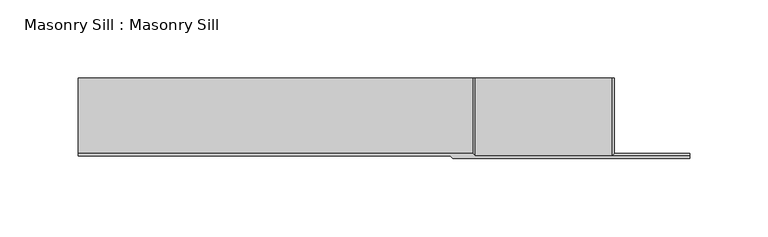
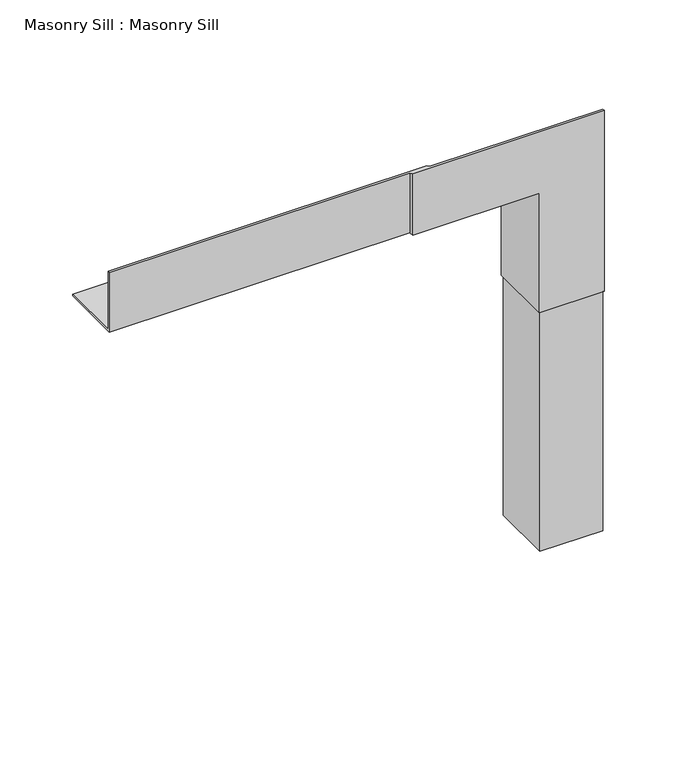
"""IFC4 building model written with IfcOpenShell, lengths in millimetres: proxy geometry, Masonry Sill : Masonry Sill."""

from ifc_helpers import new_model, si_unit, origin, place, context, project, spatial, faceted_brep, source, transform, mapped, element, save


def masonry_sill_masonry_sill_85e186c2(model_context):
    return source(origin(), model_context, "Body", "Brep", [
        faceted_brep([(26514.5726773, 632.3941297, 303.2125), (26514.5726773, 632.3941297, 353.2173158), (26514.5726773, 633.9816297, 353.2173158), (26514.5726773, 633.9816297, 304.8), (26514.5726773, 682.3989454, 304.8), (26514.5726773, 682.3989454, 303.2125), (26752.6976773, 632.3941297, 303.2125), (26752.6976773, 632.3941297, 353.2173158), (26754.2851773, 630.8066297, 353.2173158), (26905.8899931, 630.8066297, 353.2173158), (26905.8899931, 632.3941297, 353.2173158), (26768.5726773, 632.3941297, 353.2173158), (26766.9851773, 633.9816297, 353.2173158), (26766.9851773, 633.9816297, 304.8), (26766.9851773, 682.3989454, 304.8), (26768.5726773, 682.3989454, 303.2125), (26855.8851773, 682.3989454, 303.2125), (26855.8851773, 682.3989454, 215.9), (26857.4726773, 682.3989454, 214.3125), (26857.4726773, 682.3989454, 0.0), (26855.8851773, 682.3989454, 0.0), (26855.8851773, 682.3989454, 200.025), (26854.2976773, 682.3989454, 201.6125), (26854.2976773, 682.3989454, 301.625), (26754.2851773, 682.3989454, 301.625), (26752.6976773, 682.3989454, 303.2125), (26855.8851773, 632.3941297, 303.2125), (26768.5726773, 632.3941297, 303.2125), (26905.8899931, 632.3941297, 215.9), (26855.8851773, 632.3941297, 215.9), (26854.2976773, 630.8066297, 301.625), (26754.2851773, 630.8066297, 301.625), (26854.2976773, 630.8066297, 201.6125), (26905.8899931, 630.8066297, 201.6125), (26905.8899931, 632.3941297, 200.025), (26905.8899931, 632.3941297, 0.0), (26905.8899931, 633.9816297, 0.0), (26905.8899931, 633.9816297, 214.3125), (26855.8851773, 632.3941297, 0.0), (26857.4726773, 633.9816297, 0.0), (26855.8851773, 632.3941297, 200.025), (26857.4726773, 633.9816297, 214.3125)], [[[0, 1, 2, 3, 4, 5]], [[1, 0, 6, 7]], [[2, 1, 7, 8, 9, 10, 11, 12]], [[3, 2, 12, 13]], [[4, 3, 13, 14]], [[5, 4, 14, 15, 16, 17, 18, 19, 20, 21, 22, 23, 24, 25]], [[0, 5, 25, 6]], [[26, 27, 11, 10, 28, 29]], [[26, 16, 15, 27]], [[23, 30, 31, 24]], [[9, 8, 31, 30, 32, 33]], [[10, 9, 33, 34, 35, 36, 37, 28]], [[16, 26, 29, 17]], [[30, 23, 22, 32]], [[38, 20, 19, 39, 36, 35]], [[38, 35, 34, 40]], [[36, 39, 41, 37]], [[39, 19, 18, 41]], [[20, 38, 40, 21]], [[31, 6, 25, 24]], [[6, 31, 8, 7]], [[13, 27, 15, 14]], [[27, 13, 12, 11]], [[40, 32, 22, 21]], [[32, 40, 34, 33]], [[29, 41, 18, 17]], [[41, 29, 28, 37]]]),
    ])


if __name__ == "__main__":
    model = new_model("IFC4")
    model_context = context("Model", 3, world=origin())
    ifc_project = project(units=[si_unit("LENGTHUNIT", "METRE", prefix="MILLI")], contexts=[model_context])
    site = spatial("IfcSite", under=ifc_project)
    building = spatial("IfcBuilding", under=site)
    placement = place(None, origin())
    masonry_sill_masonry_sill_shape = masonry_sill_masonry_sill_85e186c2(model_context)
    element("IfcBuildingElementProxy", 1, Name="Masonry Sill : Masonry Sill", ObjectType="Masonry Sill : Masonry Sill", at=placement, inside=building, context=model_context, shape_type="MappedRepresentation", body=[
        mapped(masonry_sill_masonry_sill_shape, transform((0.0, 0.0, 0.0), x_axis=(1.0, 0.0, 0.0), y_axis=(0.0, 1.0, 0.0), z_axis=(0.0, 0.0, 1.0))),
    ])
    save(model, "model.ifc")
